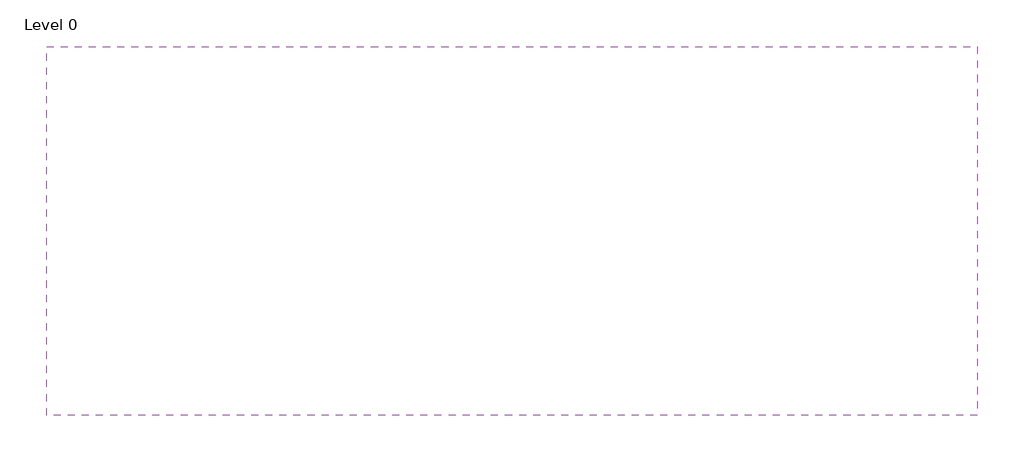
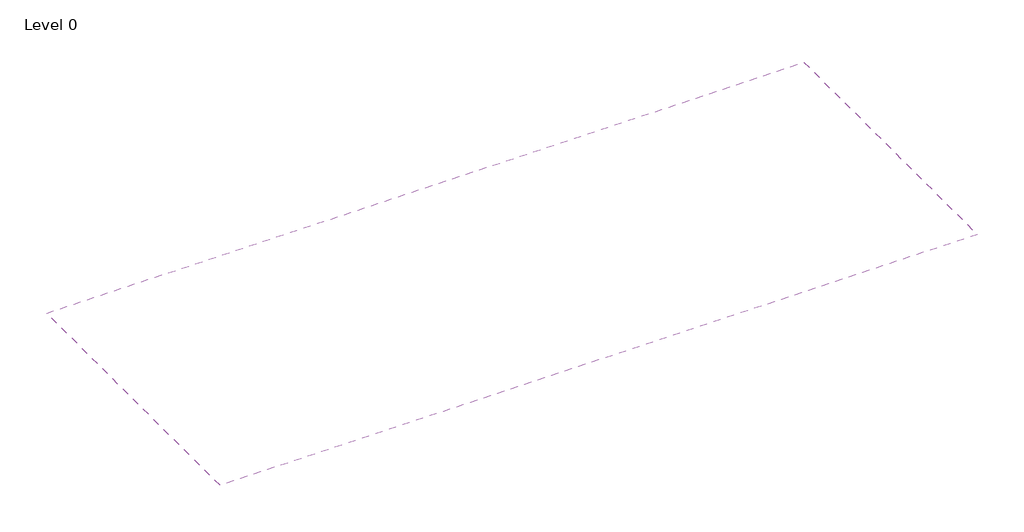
# One storey: 1 covering.
"""IFC4 building model written with IfcOpenShell, lengths in millimetres."""

import ifcopenshell
import ifcopenshell.guid

model = None  # the IFC model being written
_history = None  # IfcOwnerHistory: only IFC2X3 demands one
_inside = {}  # id of a spatial element -> (the spatial element, [elements in it])
_under = {}  # id of a project, library or spatial element -> (it, [spatial elements below it])
_declared = {}  # id of a project -> (the project, [libraries it declares])
_typed = {}  # id of a type object -> (the type object, [elements of that type])
_made_of = {}  # id of a material, layer set ... -> (it, [elements and type objects made of it])


def new_model(schema):
    """Start an empty IFC model of exactly this schema.

    Asked for "IFC4X3", IfcOpenShell would pick the latest addendum, in which some entities
    have other attributes; the version numbers below select the first issue.
    IFC2X3 requires an IfcOwnerHistory on every rooted entity: one is made here for all.
    """
    global model, _history
    if schema == "IFC4X3":
        model = ifcopenshell.file(schema_version=(4, 3, 0, 0))
    else:
        model = ifcopenshell.file(schema=schema)
    _inside.clear()
    _under.clear()
    _declared.clear()
    _typed.clear()
    _made_of.clear()
    _history = None
    if model.schema == "IFC2X3":
        org = make("IfcOrganization", Name="unknown")
        user = make(
            "IfcPersonAndOrganization",
            ThePerson=make("IfcPerson", FamilyName="unknown"),
            TheOrganization=org,
        )
        app = make(
            "IfcApplication",
            ApplicationDeveloper=org,
            Version="unknown",
            ApplicationFullName="unknown",
            ApplicationIdentifier="unknown",
        )
        _history = make(
            "IfcOwnerHistory",
            OwningUser=user,
            OwningApplication=app,
            ChangeAction="ADDED",
            CreationDate=0,
        )
    return model


def make(cls, **values):
    """One entity of the class cls with the attributes given. An attribute that is None is left unset."""
    return model.create_entity(
        cls, **{name: value for name, value in values.items() if value is not None}
    )


def rooted(cls, **values):
    """An entity with a GlobalId (a new one), such as an element, a storey or a relation."""
    return make(cls, GlobalId=ifcopenshell.guid.new(), OwnerHistory=_history, **values)


def si_unit(unit_type, name, prefix=None):
    """IfcSIUnit, for example si_unit("LENGTHUNIT", "METRE", prefix="MILLI")."""
    return make("IfcSIUnit", UnitType=unit_type, Prefix=prefix, Name=name)


def assignment(units):
    """IfcUnitAssignment: the units of a project."""
    return None if units is None else make("IfcUnitAssignment", Units=units)


def point(xyz):
    """IfcCartesianPoint."""
    return None if xyz is None else make("IfcCartesianPoint", Coordinates=xyz)


def direction(xyz):
    """IfcDirection."""
    return None if xyz is None else make("IfcDirection", DirectionRatios=xyz)


def frame(location, z_axis=None, x_axis=None):
    """IfcAxis2Placement3D, a coordinate frame: its origin and axes. An axis left out is left unset."""
    return make(
        "IfcAxis2Placement3D",
        Location=point(location),
        Axis=direction(z_axis),
        RefDirection=direction(x_axis),
    )


def origin():
    """The frame at (0, 0, 0) with its axes left unset."""
    return frame((0.0, 0.0, 0.0))


def place(relative_to, where):
    """IfcLocalPlacement: puts the frame where relative to a parent placement (None: the world)."""
    return make(
        "IfcLocalPlacement", PlacementRelTo=relative_to, RelativePlacement=where
    )


def context(
    kind, dimensions, precision=None, world=None, true_north=None, identifier=None
):
    """IfcGeometricRepresentationContext, for example the 3D "Model" context."""
    return make(
        "IfcGeometricRepresentationContext",
        ContextIdentifier=identifier,
        ContextType=kind,
        CoordinateSpaceDimension=dimensions,
        Precision=precision,
        WorldCoordinateSystem=world,
        TrueNorth=true_north,
    )


def project(units=None, contexts=None):
    """IfcProject with its units and contexts."""
    return rooted(
        "IfcProject",
        Name="project",
        RepresentationContexts=contexts,
        UnitsInContext=assignment(units),
    )


def spatial(cls, under=None, at=None, **own):
    """A site, building, storey or space (cls), placed at a placement, below another one or the project."""
    s = rooted(cls, ObjectPlacement=at, **own)
    if under is not None:
        _under.setdefault(under.id(), (under, []))[1].append(s)
    return s


def polyline(points):
    """IfcPolyline through the points."""
    return make("IfcPolyline", Points=[point(p) for p in points])


def outline(outer, holes=None, kind="AREA"):
    """IfcArbitraryClosedProfileDef: a profile drawn as a closed curve; with holes, ...WithVoids."""
    if holes is None:
        return make("IfcArbitraryClosedProfileDef", ProfileType=kind, OuterCurve=outer)
    return make(
        "IfcArbitraryProfileDefWithVoids",
        ProfileType=kind,
        OuterCurve=outer,
        InnerCurves=holes,
    )


def extrude(swept, where, along, depth):
    """IfcExtrudedAreaSolid: the profile swept, set in the frame where, extruded along a direction by depth."""
    return make(
        "IfcExtrudedAreaSolid",
        SweptArea=swept,
        Position=where,
        ExtrudedDirection=direction(along),
        Depth=depth,
    )


def shape(context_of_items, identifier, shape_type, items):
    """IfcShapeRepresentation: the items that make up one representation, for example the "Body"."""
    return make(
        "IfcShapeRepresentation",
        ContextOfItems=context_of_items,
        RepresentationIdentifier=identifier,
        RepresentationType=shape_type,
        Items=items,
    )


def made_of(thing, what):
    """Note that an element or type object is made of a material, layer set ...; save() writes the relation."""
    if what is not None:
        _made_of.setdefault(what.id(), (what, []))[1].append(thing)
    return thing


def element(
    cls,
    number,
    at=None,
    inside=None,
    cuts=None,
    type_object=None,
    material=None,
    context=None,
    identifier="Body",
    shape_type=None,
    held_by="IfcProductDefinitionShape",
    body=None,
    shapes=None,
    **own,
):
    """One element of the class cls, such as IfcWall. Its Tag is "e" and its number.

    at: its placement. inside: the storey or other place that contains it. cuts: it is an
    opening in that element (IfcRelVoidsElement). A single representation is given by context,
    identifier, shape_type and body (its items); several are given by shapes. held_by: the class
    of the entity that holds the representations. save() writes the other relations.
    """
    e = rooted(cls, Tag="e%d" % number, ObjectPlacement=at, **own)
    if body is not None:
        shapes = [shape(context, identifier, shape_type, body)]
    if shapes is not None:
        e.Representation = make(held_by, Representations=shapes)
    if inside is not None:
        _inside.setdefault(inside.id(), (inside, []))[1].append(e)
    if cuts is not None:
        rooted(
            "IfcRelVoidsElement", RelatingBuildingElement=cuts, RelatedOpeningElement=e
        )
    if type_object is not None:
        _typed.setdefault(type_object.id(), (type_object, []))[1].append(e)
    return made_of(e, material)


def aggregate(whole, parts):
    """IfcRelAggregates: a whole, such as a stair, and the parts it consists of."""
    return rooted("IfcRelAggregates", RelatingObject=whole, RelatedObjects=parts)


def save(model, path):
    """Write the relations noted so far, then the file.

    IfcRelAggregates (storeys below a building ...), IfcRelContainedInSpatialStructure (elements
    in a storey), IfcRelDefinesByType, IfcRelAssociatesMaterial and IfcRelDeclares: one each for
    every whole, place, type object, material and project.
    """
    for whole, parts in _under.values():
        aggregate(whole, parts)
    for where, things in _inside.values():
        rooted(
            "IfcRelContainedInSpatialStructure",
            RelatedElements=things,
            RelatingStructure=where,
        )
    for kind, things in _typed.values():
        rooted("IfcRelDefinesByType", RelatedObjects=things, RelatingType=kind)
    for what, things in _made_of.values():
        rooted("IfcRelAssociatesMaterial", RelatedObjects=things, RelatingMaterial=what)
    for by, libraries in _declared.values():
        rooted("IfcRelDeclares", RelatingContext=by, RelatedDefinitions=libraries)
    model.write(path)


model = new_model("IFC4")

# Units and contexts
model_context = context("Model", 3, world=origin())
ifc_project = project(units=[si_unit("LENGTHUNIT", "METRE", prefix="MILLI")], contexts=[model_context])

# Site, building, storey
site = spatial("IfcSite", under=ifc_project)
building = spatial("IfcBuilding", under=site)
storey = spatial("IfcBuildingStorey", under=building, Name="Level 0", Elevation=0.0)

# Covering
placement = place(None, origin())
element("IfcCovering", 1, ObjectType="C100019 - CasoLine MF", at=placement, inside=storey, context=model_context, shape_type="SweptSolid", body=[
    extrude(outline(polyline([(5539.9180902, 3298.2151047), (5539.9180902, -1501.7848953), (-6560.0819098, -1501.7848953), (-6560.0819098, 3298.2151047), (5539.9180902, 3298.2151047)])), frame((0.0, 0.0, 2600.0), z_axis=(0.0, 0.0, 1.0), x_axis=(1.0, 0.0, 0.0)), (0.0, 0.0, 1.0), 265.0),
])

save(model, "model.ifc")
